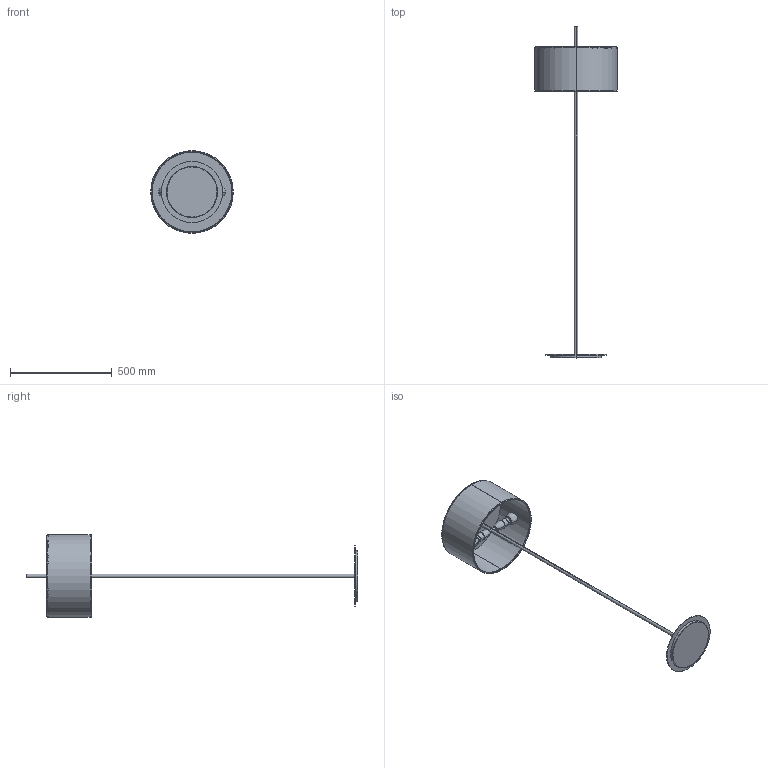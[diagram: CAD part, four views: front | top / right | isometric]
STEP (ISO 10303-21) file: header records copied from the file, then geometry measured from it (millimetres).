
FILE_DESCRIPTION (( 'STEP AP203' ), '1' );
FILE_NAME ('DANONA P NIQUEL SAT 3023105-Pyyy.STEP', '2023-02-20T12:09:02', ( '' ), ( '' ), 'SwSTEP 2.0', 'SolidWorks 2019', '' );
FILE_SCHEMA (( 'CONFIG_CONTROL_DESIGN' ));
Length unit declared in the file: millimetre
Products named in the file (4): DANONA P - CUERPO; DANONA M - PORTALAMAPARAS; DANONA P NIQUEL SAT 3023105-Pyyy; DANONA P - PANTALLA
Assembly tree (3 placements, depth 2):
  DANONA P NIQUEL SAT 3023105-Pyyy
    DANONA P - CUERPO
    DANONA P - PANTALLA
    DANONA M - PORTALAMAPARAS
Bounding box: 405 x 1631.5 x 405 mm (x, y, z)
Volume: 2422770 mm3; surface area: 1110727.4 mm2
Topology: 3 solids, 3 shells, 58 faces, 122 edges, 70 vertices
Faces by surface type: bspline 26, cylinder 20, plane 12
Entity records: 2274 total; most frequent: CARTESIAN_POINT 704, DIRECTION 272, ORIENTED_EDGE 228, AXIS2_PLACEMENT_3D 126, EDGE_CURVE 114, CIRCLE 88, VERTEX_POINT 70, EDGE_LOOP 68
